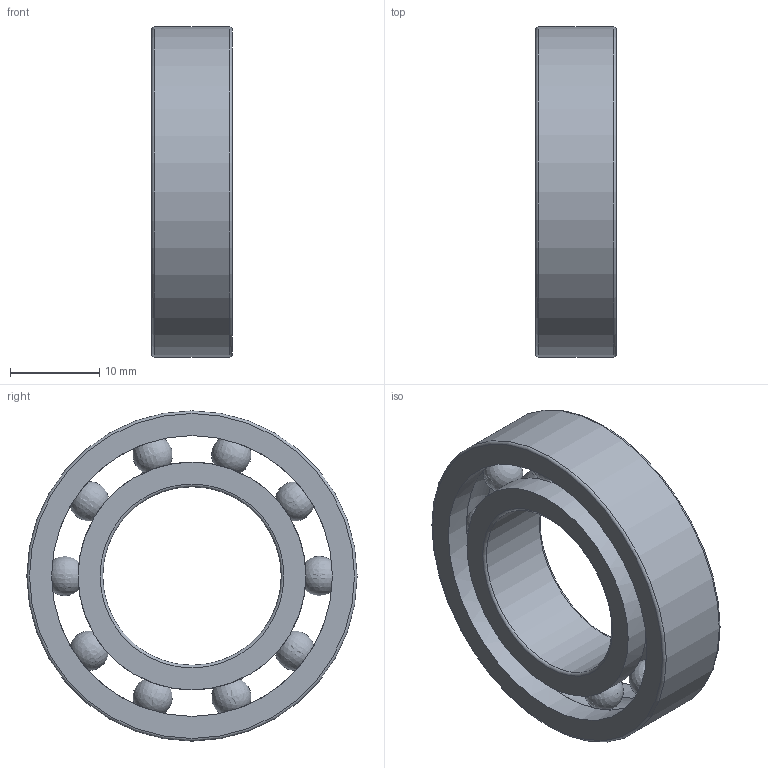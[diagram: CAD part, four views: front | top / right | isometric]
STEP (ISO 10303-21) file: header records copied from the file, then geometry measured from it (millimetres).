
FILE_DESCRIPTION(/* description */ ('깊은 그루브 볼 베어링'),/* implementation_level */ '2;1');
FILE_NAME(/* name */ '',/* time_stamp */ '2024-08-09T13:03:00+09:00',/* author */ ('jhkim'),/* organization */ (''),/* preprocessor_version */ 'ST-DEVELOPER v20',/* originating_system */ 'Autodesk Inventor 2025',/* authorisation */ '');
FILE_SCHEMA (('AUTOMOTIVE_DESIGN { 1 0 10303 214 3 1 1 }'));
Length unit declared in the file: millimetre
Products named in the file (1): 깊은 홈 볼 베어링 
6904
Bounding box: 9 x 37 x 37 mm (x, y, z)
Volume: 4613.4 mm3; surface area: 4858.2 mm2
Topology: 12 solids, 12 shells, 44 faces, 116 edges, 76 vertices
Faces by surface type: torus 24, sphere 10, cylinder 6, plane 4
Full cylindrical faces by diameter (mm): 20 x1, 25.542 x2, 31.458 x2, 37 x1
Entity records: 1638 total; most frequent: DIRECTION 316, CARTESIAN_POINT 277, ORIENTED_EDGE 232, AXIS2_PLACEMENT_3D 155, VERTEX_POINT 116, EDGE_CURVE 116, CIRCLE 110, EDGE_LOOP 68
